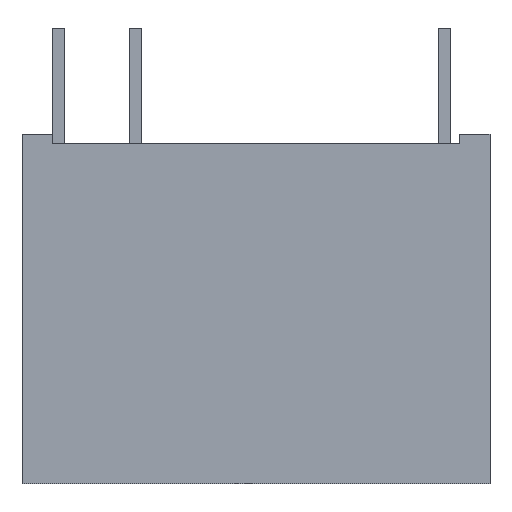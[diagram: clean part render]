
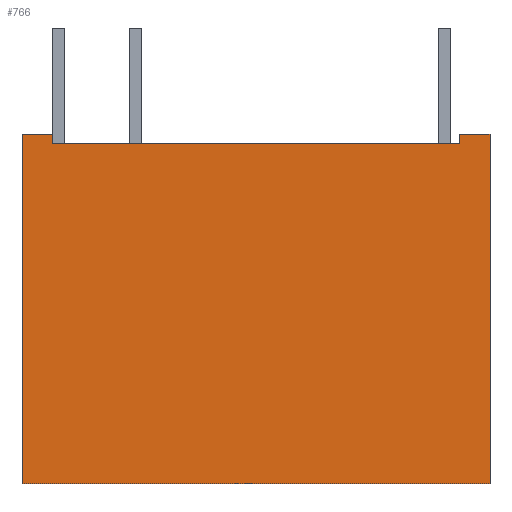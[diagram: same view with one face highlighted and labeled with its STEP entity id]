
A CAD part, front view. The second image highlights one B-rep face of the part: STEP entity #766.
In plain terms, the highlighted planar face has unit normal (0, -1, 0).
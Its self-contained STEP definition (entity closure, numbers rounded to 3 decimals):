
#14=DIRECTION('',(-1.,0.,0.));
#15=VECTOR('',#14,15.4);
#16=CARTESIAN_POINT('',(7.7,-5.,-11.5));
#17=LINE('',#16,#15);
#22=DIRECTION('',(0.,0.,1.));
#23=VECTOR('',#22,0.3);
#24=CARTESIAN_POINT('',(6.7,-5.,-0.3));
#25=LINE('',#24,#23);
#26=DIRECTION('',(0.,0.,-1.));
#27=VECTOR('',#26,11.5);
#28=CARTESIAN_POINT('',(7.7,-5.,0.));
#29=LINE('',#28,#27);
#30=DIRECTION('',(0.,0.,1.));
#31=VECTOR('',#30,11.5);
#32=CARTESIAN_POINT('',(-7.7,-5.,-11.5));
#33=LINE('',#32,#31);
#94=DIRECTION('',(-1.,0.,0.));
#95=VECTOR('',#94,13.4);
#96=CARTESIAN_POINT('',(6.7,-5.,-0.3));
#97=LINE('',#96,#95);
#174=DIRECTION('',(1.,0.,0.));
#175=VECTOR('',#174,1.);
#176=CARTESIAN_POINT('',(-7.7,-5.,0.));
#177=LINE('',#176,#175);
#202=DIRECTION('',(1.,0.,0.));
#203=VECTOR('',#202,1.);
#204=CARTESIAN_POINT('',(6.7,-5.,0.));
#205=LINE('',#204,#203);
#238=DIRECTION('',(0.,0.,1.));
#239=VECTOR('',#238,0.3);
#240=CARTESIAN_POINT('',(-6.7,-5.,-0.3));
#241=LINE('',#240,#239);
#531=CARTESIAN_POINT('',(7.7,-5.,-11.5));
#533=VERTEX_POINT('',#531);
#534=CARTESIAN_POINT('',(-7.7,-5.,-11.5));
#535=VERTEX_POINT('',#534);
#574=CARTESIAN_POINT('',(-7.7,-5.,0.));
#575=VERTEX_POINT('',#574);
#576=CARTESIAN_POINT('',(-6.7,-5.,0.));
#577=VERTEX_POINT('',#576);
#583=CARTESIAN_POINT('',(6.7,-5.,0.));
#585=VERTEX_POINT('',#583);
#586=CARTESIAN_POINT('',(7.7,-5.,0.));
#587=VERTEX_POINT('',#586);
#614=CARTESIAN_POINT('',(-6.7,-5.,-0.3));
#615=VERTEX_POINT('',#614);
#620=CARTESIAN_POINT('',(6.7,-5.,-0.3));
#621=VERTEX_POINT('',#620);
#745=CARTESIAN_POINT('',(7.7,-5.,-11.5));
#746=DIRECTION('',(0.,-1.,0.));
#747=DIRECTION('',(-1.,0.,0.));
#748=AXIS2_PLACEMENT_3D('',#745,#746,#747);
#749=PLANE('',#748);
#751=ORIENTED_EDGE('',*,*,#750,.F.);
#753=ORIENTED_EDGE('',*,*,#752,.T.);
#755=ORIENTED_EDGE('',*,*,#754,.T.);
#756=ORIENTED_EDGE('',*,*,#727,.T.);
#757=ORIENTED_EDGE('',*,*,#717,.T.);
#759=ORIENTED_EDGE('',*,*,#758,.T.);
#761=ORIENTED_EDGE('',*,*,#760,.T.);
#763=ORIENTED_EDGE('',*,*,#762,.F.);
#764=EDGE_LOOP('',(#751,#753,#755,#756,#757,#759,#761,#763));
#765=FACE_OUTER_BOUND('',#764,.F.);
#717=EDGE_CURVE('',#533,#535,#17,.T.);
#727=EDGE_CURVE('',#587,#533,#29,.T.);
#750=EDGE_CURVE('',#621,#615,#97,.T.);
#752=EDGE_CURVE('',#621,#585,#25,.T.);
#754=EDGE_CURVE('',#585,#587,#205,.T.);
#758=EDGE_CURVE('',#535,#575,#33,.T.);
#760=EDGE_CURVE('',#575,#577,#177,.T.);
#762=EDGE_CURVE('',#615,#577,#241,.T.);
#766=ADVANCED_FACE('',(#765),#749,.T.);
